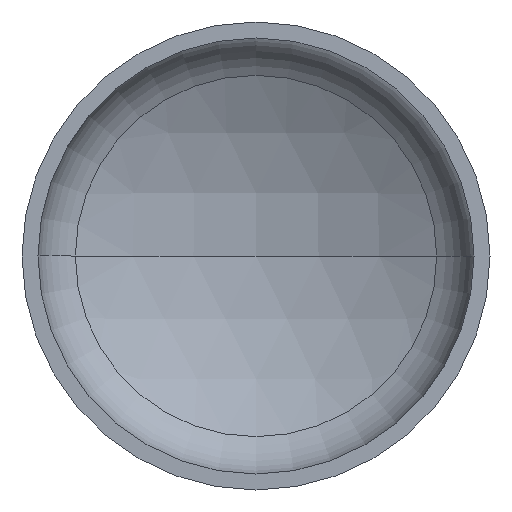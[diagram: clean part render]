
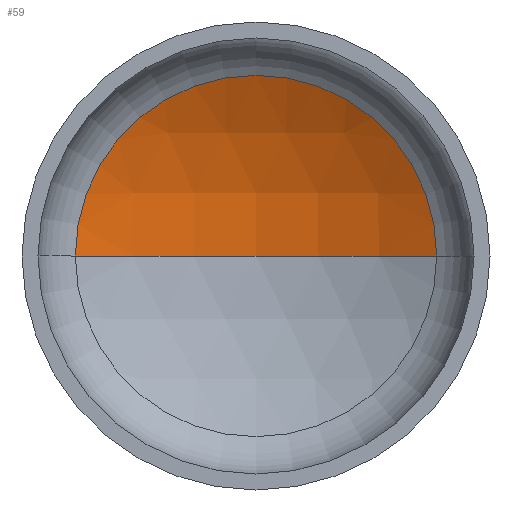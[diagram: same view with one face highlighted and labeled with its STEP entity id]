
A CAD part, front view. The second image highlights one B-rep face of the part: STEP entity #59.
In plain terms, the highlighted spherical face has radius 960 mm.
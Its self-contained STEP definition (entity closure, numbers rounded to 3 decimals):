
#1 = CARTESIAN_POINT ( 'NONE',  ( 463.277, 292.033, 0. ) ) ;
#7 = DIRECTION ( 'NONE',  ( 1., 0., 0. ) ) ;
#10 = DIRECTION ( 'NONE',  ( 0., 0., 1. ) ) ;
#11 = EDGE_LOOP ( 'NONE', ( #141, #128, #86 ) ) ;
#14 = CARTESIAN_POINT ( 'NONE',  ( 0., -548.785, 0. ) ) ;
#38 = AXIS2_PLACEMENT_3D ( 'NONE', #14, #10, #7 ) ;
#39 = AXIS2_PLACEMENT_3D ( 'NONE', #170, #341, #194 ) ;
#40 = AXIS2_PLACEMENT_3D ( 'NONE', #210, #211, #192 ) ;
#59 = ADVANCED_FACE ( 'NONE', ( #376 ), #64, .F. ) ;
#60 = AXIS2_PLACEMENT_3D ( 'NONE', #248, #260, #244 ) ;
#64 = SPHERICAL_SURFACE ( 'NONE', #60, 960. ) ;
#83 = EDGE_CURVE ( 'NONE', #107, #120, #411, .T. ) ;
#84 = EDGE_CURVE ( 'NONE', #88, #107, #356, .T. ) ;
#86 = ORIENTED_EDGE ( 'NONE', *, *, #83, .T. ) ;
#88 = VERTEX_POINT ( 'NONE', #219 ) ;
#104 = EDGE_CURVE ( 'NONE', #88, #120, #284, .T. ) ;
#107 = VERTEX_POINT ( 'NONE', #1 ) ;
#120 = VERTEX_POINT ( 'NONE', #147 ) ;
#128 = ORIENTED_EDGE ( 'NONE', *, *, #84, .T. ) ;
#141 = ORIENTED_EDGE ( 'NONE', *, *, #104, .F. ) ;
#147 = CARTESIAN_POINT ( 'NONE',  ( -463.277, 292.033, 0. ) ) ;
#170 = CARTESIAN_POINT ( 'NONE',  ( 0., -548.785, 0. ) ) ;
#192 = DIRECTION ( 'NONE',  ( 1., 0., 0. ) ) ;
#194 = DIRECTION ( 'NONE',  ( -1., 0., 0. ) ) ;
#210 = CARTESIAN_POINT ( 'NONE',  ( 0., 292.033, 0. ) ) ;
#211 = DIRECTION ( 'NONE',  ( 0., -1., 0. ) ) ;
#219 = CARTESIAN_POINT ( 'NONE',  ( 0., 411.215, 0. ) ) ;
#244 = DIRECTION ( 'NONE',  ( -1., 0., 0. ) ) ;
#248 = CARTESIAN_POINT ( 'NONE',  ( 0., -548.785, 0. ) ) ;
#260 = DIRECTION ( 'NONE',  ( 0., 0., -1. ) ) ;
#284 = CIRCLE ( 'NONE', #38, 960. ) ;
#341 = DIRECTION ( 'NONE',  ( 0., 0., -1. ) ) ;
#356 = CIRCLE ( 'NONE', #39, 960. ) ;
#376 = FACE_OUTER_BOUND ( 'NONE', #11, .T. ) ;
#411 = CIRCLE ( 'NONE', #40, 463.277 ) ;
